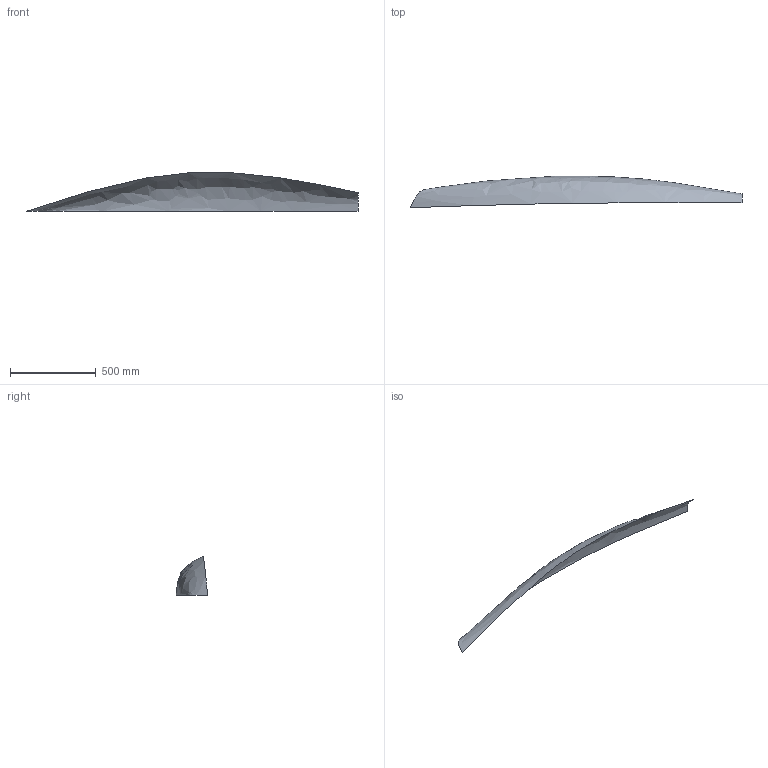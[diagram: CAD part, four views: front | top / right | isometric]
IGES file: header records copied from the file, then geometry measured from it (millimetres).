
Start section: This file was written from GridTool (For more information see ht tp://geolab.larc.nasa.gov/GridTool) or contact GridTool author: Jamshid Samareh (j.a.samareh@larc.nasa.gov)
Global section: file name: /usr2/people/rosen/nets_pact/mx12/hullninp.igs; native system: Jamshid_system(j.a.samareh@larc.nasa.gov); preprocessor: V.0.0.0.0.0; author: Jamshid_Samareh; organization: CSC; date: 970920.175812; units: inch
Bounding box: 1937.62 x 182.84 x 225.08 mm (x, y, z)
Surface area: 440354.4 mm2 (no closed solid volume)
Topology: 0 solids, 0 shells, 1 faces, 4 edges, 4 vertices
Faces by surface type: bspline 1
